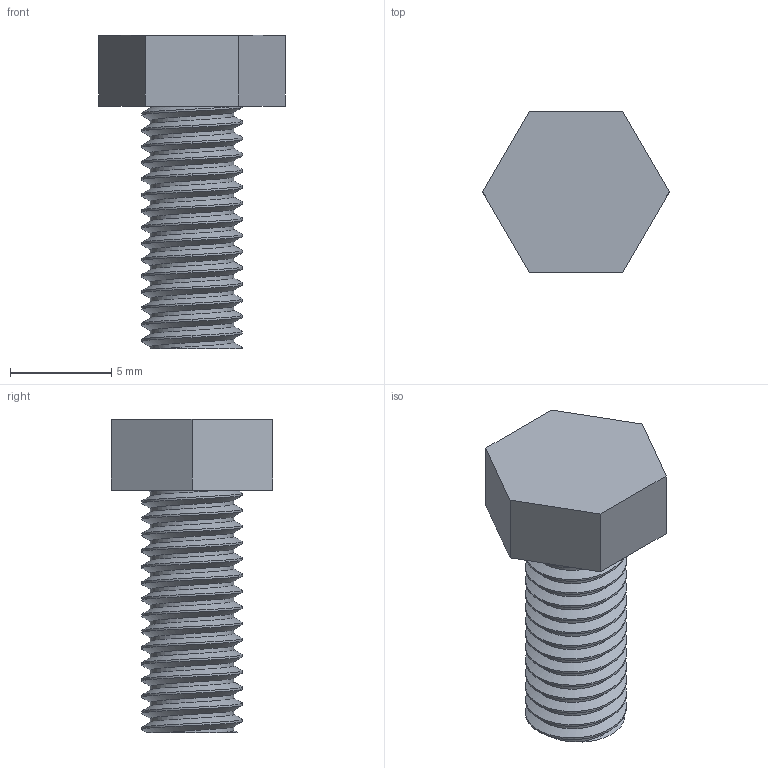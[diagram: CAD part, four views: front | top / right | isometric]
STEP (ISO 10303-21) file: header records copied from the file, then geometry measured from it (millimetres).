
FILE_DESCRIPTION(('Open CASCADE Model'),'2;1');
FILE_NAME('Open CASCADE Shape Model','2026-11-25T12:51:11',('Author'),( 'Open CASCADE'),'Open CASCADE STEP processor 8.0','Open CASCADE 8.0' ,'Unknown');
FILE_SCHEMA(('AP242_MANAGED_MODEL_BASED_3D_ENGINEERING_MIM_LF {1 0 10303 442 1 1 4 }' ));
Length unit declared in the file: millimetre
Products named in the file (1): M5 hex screw · 12 mm
Bounding box: 9.24 x 8 x 15.5 mm (x, y, z)
Volume: 386.9 mm3; surface area: 485.8 mm2
Topology: 1 solids, 1 shells, 27 faces, 72 edges, 48 vertices
Faces by surface type: cylinder 15, plane 9, bspline 3
Full cylindrical faces by diameter (mm): 5 x13
Entity records: 13542 total; most frequent: CARTESIAN_POINT 12287, DIRECTION 155, ORIENTED_EDGE 144, PCURVE 144, DEFINITIONAL_REPRESENTATION 144, B_SPLINE_CURVE_WITH_KNOTS 112, LINE 100, VECTOR 100
